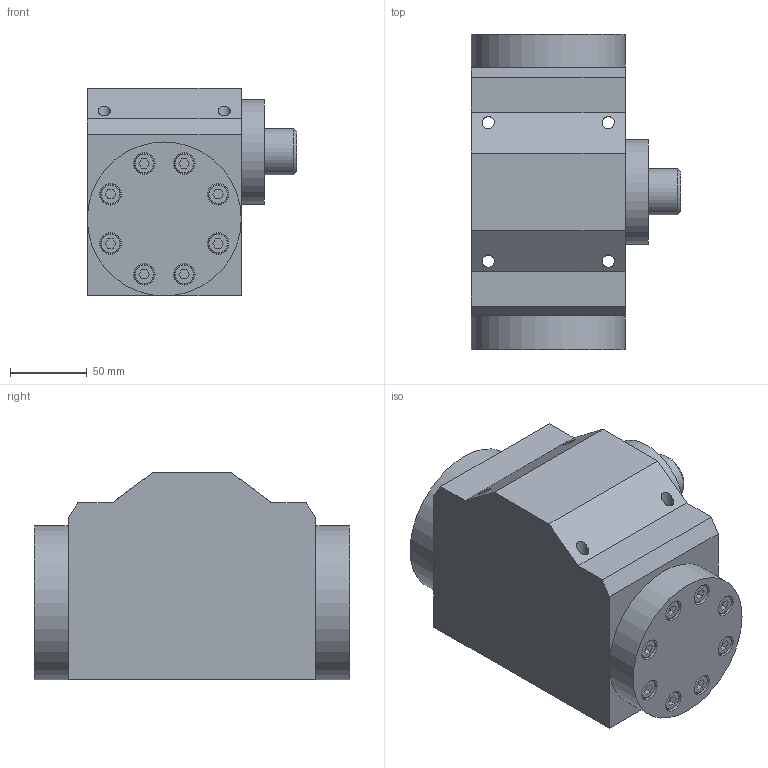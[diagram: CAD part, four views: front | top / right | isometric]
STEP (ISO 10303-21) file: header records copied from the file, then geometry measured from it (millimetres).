
FILE_DESCRIPTION(/* description */ (''),/* implementation_level */ '2;1');
FILE_NAME(/* name */ '2-3.prt.stp',/* time_stamp */ '2023-05-03T15:30:25+08:00',/* author */ (''),/* organization */ (''),/* preprocessor_version */ 'ST-DEVELOPER v16.7',/* originating_system */ 'SIEMENS PLM Software NX 12.0',/* authorisation */ '');
FILE_SCHEMA (('AUTOMOTIVE_DESIGN { 1 0 10303 214 3 1 1 1 }'));
Length unit declared in the file: millimetre
Products named in the file (1): 2-3
Bounding box: 136 x 205 x 135 mm (x, y, z)
Volume: 2353586.9 mm3; surface area: 237268.7 mm2
Topology: 30 solids, 30 shells, 653 faces, 1594 edges, 1056 vertices
Faces by surface type: plane 389, cylinder 188, cone 52, torus 24
Full cylindrical faces by diameter (mm): 5 x8, 6 x8, 6.8 x16, 7 x8, 8 x20, 9 x16, 10 x8, 11 x12, 13 x18, 14 x16, 18 x1, 20 x2, 25 x1, 30 x3, 68.098 x1, 100 x2
Entity records: 17314 total; most frequent: DIRECTION 3004, CARTESIAN_POINT 2829, ORIENTED_EDGE 2446, EDGE_CURVE 1223, AXIS2_PLACEMENT_3D 1127, EDGE_LOOP 1054, VERTEX_POINT 952, LINE 750
